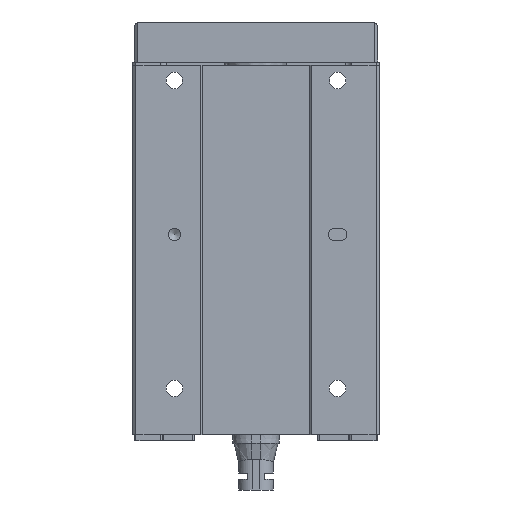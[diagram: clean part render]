
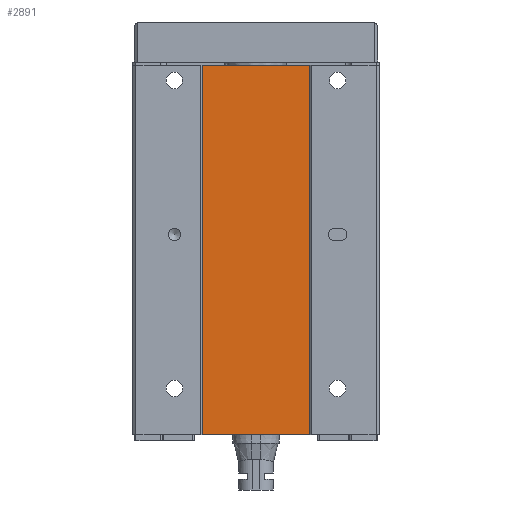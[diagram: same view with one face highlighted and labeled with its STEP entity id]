
A CAD part, front view. The second image highlights one B-rep face of the part: STEP entity #2891.
In plain terms, the highlighted planar face has unit normal (0, -1, 0).
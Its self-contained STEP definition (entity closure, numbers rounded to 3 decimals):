
#1001=CARTESIAN_POINT('',(17.5,0.0,-120.0));
#1002=VERTEX_POINT('',#1001);
#1009=CARTESIAN_POINT('',(-17.5,0.0,-120.0));
#1010=VERTEX_POINT('',#1009);
#1011=CARTESIAN_POINT('',(17.5,0.0,-120.0));
#1012=DIRECTION('',(-1.0,0.0,0.0));
#1013=VECTOR('',#1012,35.);
#1014=LINE('',#1011,#1013);
#1015=EDGE_CURVE('',#1002,#1010,#1014,.T.);
#2128=CARTESIAN_POINT('',(-17.5,0.0,0.0));
#2129=VERTEX_POINT('',#2128);
#2136=CARTESIAN_POINT('',(17.5,0.0,0.0));
#2137=VERTEX_POINT('',#2136);
#2138=CARTESIAN_POINT('',(-17.5,0.0,0.0));
#2139=DIRECTION('',(1.0,0.0,0.0));
#2140=VECTOR('',#2139,35.);
#2141=LINE('',#2138,#2140);
#2142=EDGE_CURVE('',#2129,#2137,#2141,.T.);
#2866=CARTESIAN_POINT('',(-17.5,0.0,0.0));
#2867=DIRECTION('',(0.0,0.0,-1.0));
#2868=VECTOR('',#2867,120.0);
#2869=LINE('',#2866,#2868);
#2870=EDGE_CURVE('',#2129,#1010,#2869,.T.);
#2875=CARTESIAN_POINT('',(17.5,0.0,0.0));
#2876=DIRECTION('',(0.0,-1.0,0.0));
#2877=DIRECTION('',(0.0,0.0,-1.0));
#2878=AXIS2_PLACEMENT_3D('',#2875,#2876,#2877);
#2879=PLANE('',#2878);
#2880=ORIENTED_EDGE('',*,*,#2142,.F.);
#2881=ORIENTED_EDGE('',*,*,#2870,.T.);
#2882=ORIENTED_EDGE('',*,*,#1015,.F.);
#2883=CARTESIAN_POINT('',(17.5,0.0,0.0));
#2884=DIRECTION('',(0.0,0.0,-1.0));
#2885=VECTOR('',#2884,120.0);
#2886=LINE('',#2883,#2885);
#2887=EDGE_CURVE('',#2137,#1002,#2886,.T.);
#2888=ORIENTED_EDGE('',*,*,#2887,.F.);
#2889=EDGE_LOOP('',(#2880,#2881,#2882,#2888));
#2890=FACE_OUTER_BOUND('',#2889,.T.);
#2891=ADVANCED_FACE('',(#2890),#2879,.T.);
